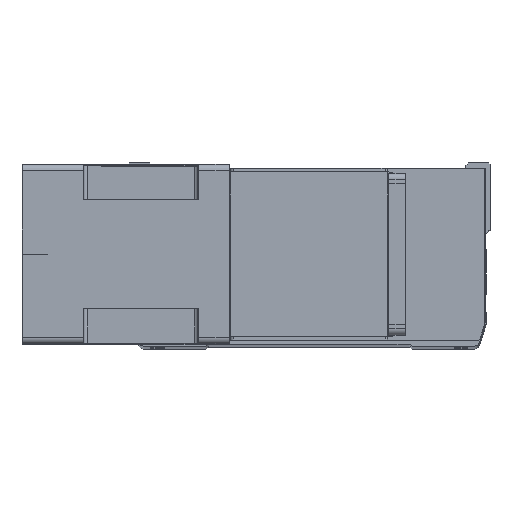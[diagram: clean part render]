
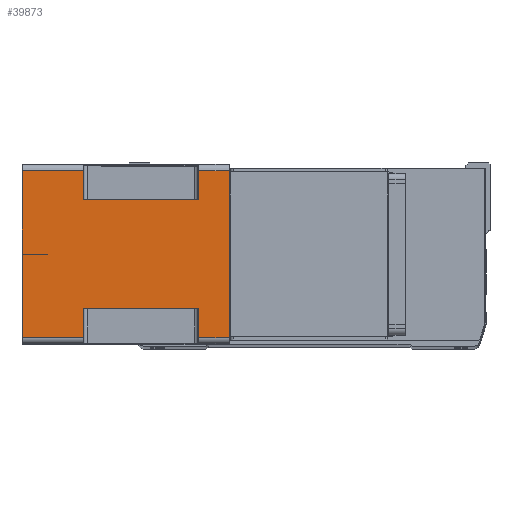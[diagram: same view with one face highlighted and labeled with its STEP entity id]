
A CAD part, top view. The second image highlights one B-rep face of the part: STEP entity #39873.
In plain terms, the highlighted planar face has unit normal (0, 0, 1) as drawn and (-1, 0, 0) by its records, which use the part's own axes.
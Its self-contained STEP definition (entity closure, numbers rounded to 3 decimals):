
#71 = LINE ( 'NONE', #9272, #5919 ) ;
#841 = CARTESIAN_POINT ( 'NONE',  ( -71., -66., 0. ) ) ;
#923 = VECTOR ( 'NONE', #30397, 1000. ) ;
#1049 = VERTEX_POINT ( 'NONE', #7612 ) ;
#1269 = CARTESIAN_POINT ( 'NONE',  ( -71., -43., -24.5 ) ) ;
#1933 = DIRECTION ( 'NONE',  ( 0., -1., 0. ) ) ;
#2137 = DIRECTION ( 'NONE',  ( 0., 1., 0. ) ) ;
#3613 = VERTEX_POINT ( 'NONE', #1269 ) ;
#4140 = EDGE_CURVE ( 'NONE', #26573, #41573, #14757, .T. ) ;
#4236 = CARTESIAN_POINT ( 'NONE',  ( -71., 43., -24.5 ) ) ;
#4267 = VERTEX_POINT ( 'NONE', #9788 ) ;
#5268 = VECTOR ( 'NONE', #34148, 1000. ) ;
#5873 = DIRECTION ( 'NONE',  ( 0., 0., -1. ) ) ;
#5919 = VECTOR ( 'NONE', #9426, 1000. ) ;
#6155 = EDGE_CURVE ( 'NONE', #34355, #4267, #36230, .T. ) ;
#6178 = VECTOR ( 'NONE', #5873, 1000. ) ;
#6283 = VECTOR ( 'NONE', #39643, 1000. ) ;
#6681 = CARTESIAN_POINT ( 'NONE',  ( -71., 66., -164. ) ) ;
#7334 = LINE ( 'NONE', #6681, #923 ) ;
#7422 = LINE ( 'NONE', #4236, #17520 ) ;
#7590 = VECTOR ( 'NONE', #18957, 1000. ) ;
#7612 = CARTESIAN_POINT ( 'NONE',  ( -71., 66., -24.5 ) ) ;
#7806 = VECTOR ( 'NONE', #22087, 1000. ) ;
#7997 = ORIENTED_EDGE ( 'NONE', *, *, #30055, .T. ) ;
#8023 = DIRECTION ( 'NONE',  ( 0., -1., 0. ) ) ;
#8754 = EDGE_CURVE ( 'NONE', #34355, #41573, #34913, .T. ) ;
#9158 = LINE ( 'NONE', #25440, #7590 ) ;
#9272 = CARTESIAN_POINT ( 'NONE',  ( -71., -66., -164. ) ) ;
#9399 = AXIS2_PLACEMENT_3D ( 'NONE', #11360, #11657, #28715 ) ;
#9426 = DIRECTION ( 'NONE',  ( 0., 0., 1. ) ) ;
#9788 = CARTESIAN_POINT ( 'NONE',  ( -71., -66., -164. ) ) ;
#9960 = ORIENTED_EDGE ( 'NONE', *, *, #24636, .F. ) ;
#10047 = VERTEX_POINT ( 'NONE', #31628 ) ;
#10058 = CARTESIAN_POINT ( 'NONE',  ( -71., -66., 0. ) ) ;
#10260 = VERTEX_POINT ( 'NONE', #26442 ) ;
#10568 = VERTEX_POINT ( 'NONE', #39276 ) ;
#11360 = CARTESIAN_POINT ( 'NONE',  ( -71., -66., -164. ) ) ;
#11657 = DIRECTION ( 'NONE',  ( -1., 0., 0. ) ) ;
#11952 = EDGE_CURVE ( 'NONE', #3613, #10568, #38563, .T. ) ;
#13958 = ORIENTED_EDGE ( 'NONE', *, *, #15445, .F. ) ;
#14757 = LINE ( 'NONE', #29134, #23289 ) ;
#14760 = PLANE ( 'NONE',  #9399 ) ;
#14801 = EDGE_CURVE ( 'NONE', #1049, #15472, #7422, .T. ) ;
#15445 = EDGE_CURVE ( 'NONE', #1049, #10047, #7334, .T. ) ;
#15472 = VERTEX_POINT ( 'NONE', #36954 ) ;
#17223 = EDGE_CURVE ( 'NONE', #10047, #21730, #43480, .T. ) ;
#17520 = VECTOR ( 'NONE', #35681, 1000. ) ;
#18510 = CARTESIAN_POINT ( 'NONE',  ( -71., -66., -115.5 ) ) ;
#18656 = ORIENTED_EDGE ( 'NONE', *, *, #17223, .F. ) ;
#18957 = DIRECTION ( 'NONE',  ( 0., 0., 1. ) ) ;
#19233 = CARTESIAN_POINT ( 'NONE',  ( -71., 43., -164. ) ) ;
#19435 = ORIENTED_EDGE ( 'NONE', *, *, #43518, .T. ) ;
#21730 = VERTEX_POINT ( 'NONE', #841 ) ;
#21953 = ORIENTED_EDGE ( 'NONE', *, *, #11952, .F. ) ;
#22087 = DIRECTION ( 'NONE',  ( 0., 0., 1. ) ) ;
#22154 = LINE ( 'NONE', #29571, #6283 ) ;
#22454 = ORIENTED_EDGE ( 'NONE', *, *, #14801, .T. ) ;
#22461 = EDGE_CURVE ( 'NONE', #39859, #10568, #22154, .T. ) ;
#23279 = ORIENTED_EDGE ( 'NONE', *, *, #22461, .T. ) ;
#23289 = VECTOR ( 'NONE', #2137, 1000. ) ;
#23391 = VECTOR ( 'NONE', #8023, 1000. ) ;
#24636 = EDGE_CURVE ( 'NONE', #26573, #15472, #41721, .T. ) ;
#24909 = CARTESIAN_POINT ( 'NONE',  ( -71., 66., -164. ) ) ;
#25440 = CARTESIAN_POINT ( 'NONE',  ( -71., -66., -164. ) ) ;
#25482 = FACE_OUTER_BOUND ( 'NONE', #31623, .T. ) ;
#26032 = DIRECTION ( 'NONE',  ( 0., 0., 1. ) ) ;
#26442 = CARTESIAN_POINT ( 'NONE',  ( -71., -66., -24.5 ) ) ;
#26573 = VERTEX_POINT ( 'NONE', #30133 ) ;
#28442 = ORIENTED_EDGE ( 'NONE', *, *, #4140, .T. ) ;
#28715 = DIRECTION ( 'NONE',  ( 0., -1., 0. ) ) ;
#29134 = CARTESIAN_POINT ( 'NONE',  ( -71., -66., -115.5 ) ) ;
#29211 = LINE ( 'NONE', #32054, #23391 ) ;
#29571 = CARTESIAN_POINT ( 'NONE',  ( -71., -43., -115.5 ) ) ;
#29849 = VECTOR ( 'NONE', #1933, 1000. ) ;
#30055 = EDGE_CURVE ( 'NONE', #4267, #39859, #71, .T. ) ;
#30133 = CARTESIAN_POINT ( 'NONE',  ( -71., 43., -115.5 ) ) ;
#30397 = DIRECTION ( 'NONE',  ( 0., 0., 1. ) ) ;
#31623 = EDGE_LOOP ( 'NONE', ( #7997, #23279, #21953, #19435, #35972, #18656, #13958, #22454, #9960, #28442, #40932, #33292 ) ) ;
#31628 = CARTESIAN_POINT ( 'NONE',  ( -71., 66., 0. ) ) ;
#32054 = CARTESIAN_POINT ( 'NONE',  ( -71., -66., -24.5 ) ) ;
#32650 = CARTESIAN_POINT ( 'NONE',  ( -71., -66., -164. ) ) ;
#32684 = CARTESIAN_POINT ( 'NONE',  ( -71., 66., -164. ) ) ;
#32742 = VECTOR ( 'NONE', #26032, 1000. ) ;
#33292 = ORIENTED_EDGE ( 'NONE', *, *, #6155, .T. ) ;
#34148 = DIRECTION ( 'NONE',  ( 0., -1., 0. ) ) ;
#34355 = VERTEX_POINT ( 'NONE', #32684 ) ;
#34913 = LINE ( 'NONE', #24909, #7806 ) ;
#35681 = DIRECTION ( 'NONE',  ( 0., -1., 0. ) ) ;
#35972 = ORIENTED_EDGE ( 'NONE', *, *, #37092, .T. ) ;
#36230 = LINE ( 'NONE', #32650, #29849 ) ;
#36954 = CARTESIAN_POINT ( 'NONE',  ( -71., 43., -24.5 ) ) ;
#37092 = EDGE_CURVE ( 'NONE', #10260, #21730, #9158, .T. ) ;
#38563 = LINE ( 'NONE', #42781, #6178 ) ;
#39276 = CARTESIAN_POINT ( 'NONE',  ( -71., -43., -115.5 ) ) ;
#39643 = DIRECTION ( 'NONE',  ( 0., 1., 0. ) ) ;
#39859 = VERTEX_POINT ( 'NONE', #18510 ) ;
#39873 = ADVANCED_FACE ( 'NONE', ( #25482 ), #14760, .T. ) ;
#40829 = CARTESIAN_POINT ( 'NONE',  ( -71., 66., -115.5 ) ) ;
#40932 = ORIENTED_EDGE ( 'NONE', *, *, #8754, .F. ) ;
#41573 = VERTEX_POINT ( 'NONE', #40829 ) ;
#41721 = LINE ( 'NONE', #19233, #32742 ) ;
#42781 = CARTESIAN_POINT ( 'NONE',  ( -71., -43., -164. ) ) ;
#43480 = LINE ( 'NONE', #10058, #5268 ) ;
#43518 = EDGE_CURVE ( 'NONE', #3613, #10260, #29211, .T. ) ;
